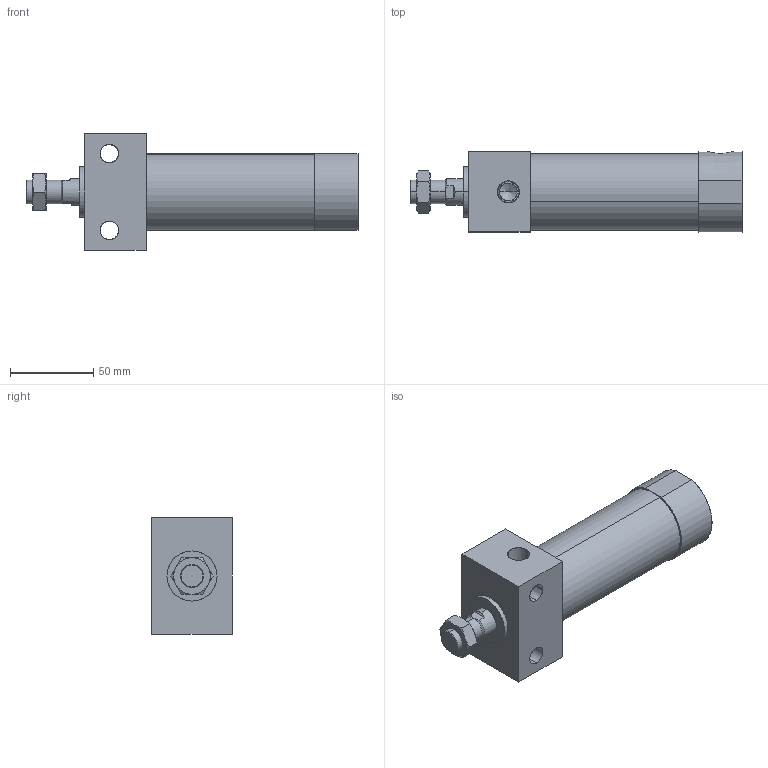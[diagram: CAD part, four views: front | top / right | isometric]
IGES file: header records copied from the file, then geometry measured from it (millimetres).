
Start section: SolidWorks IGES file using analytic representation for surfaces
Global section: file name: C:\Users\Toshiba\Desktop\JGES2-40-50.IGS; native system: SolidWorks 2014; preprocessor: SolidWorks 2014; author: Toshiba; date: 160420.150707; units: millimetre
Bounding box: 199 x 48 x 70 mm (x, y, z)
Surface area: 49333.6 mm2 (no closed solid volume)
Topology: 0 solids, 0 shells, 85 faces, 1650 edges, 1644 vertices
Faces by surface type: bspline 43, revolution 42
